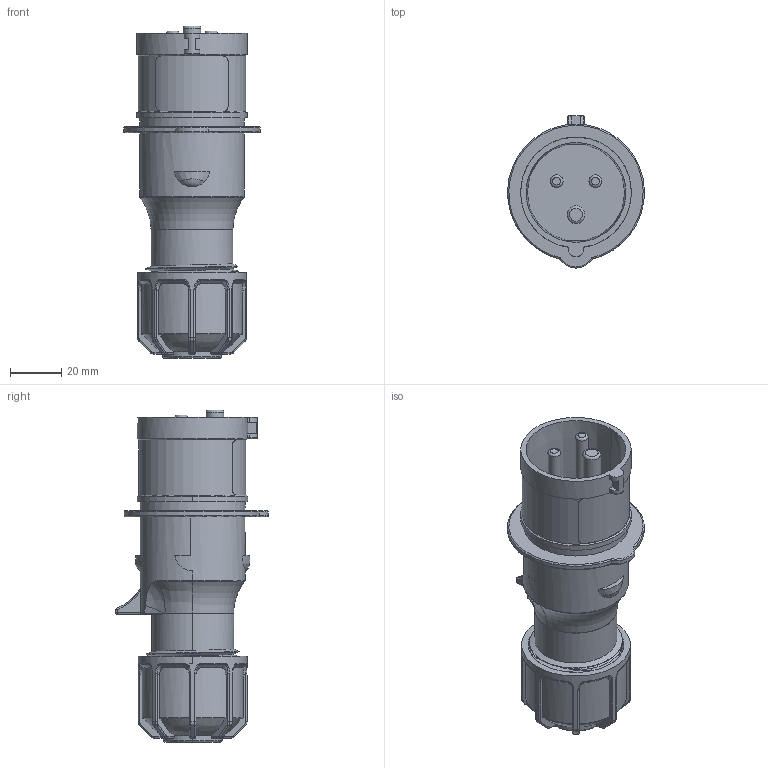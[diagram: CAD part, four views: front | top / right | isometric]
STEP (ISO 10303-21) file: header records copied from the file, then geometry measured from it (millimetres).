
FILE_DESCRIPTION(('FreeCAD Model'),'2;1');
FILE_NAME('Open CASCADE Shape Model','2026-02-04T09:34:04',(''),(''), 'Open CASCADE STEP processor 7.8','FreeCAD','Unknown');
FILE_SCHEMA(('AUTOMOTIVE_DESIGN { 1 0 10303 214 1 1 1 1 }'));
Length unit declared in the file: millimetre
Products named in the file (6): TL3P16432; Prensa cabo; Tomada; Pino Neutro; Pino Terra; Pino L1
Assembly tree (5 placements, depth 2):
  TL3P16432
    Prensa cabo
    Tomada
    Pino Neutro
    Pino Terra
    Pino L1
Bounding box: 53.47 x 59.5 x 129.7 mm (x, y, z)
Volume: 93513.4 mm3; surface area: 38614.7 mm2
Topology: 5 solids, 32 shells, 526 faces, 1226 edges, 771 vertices
Faces by surface type: bspline 206, plane 133, cylinder 105, torus 52, cone 24, sphere 6
Full cylindrical faces by diameter (mm): 5 x2, 7 x1, 41 x1
Entity records: 34995 total; most frequent: CARTESIAN_POINT 24558, ORIENTED_EDGE 2440, DIRECTION 1627, EDGE_CURVE 1220, VERTEX_POINT 769, AXIS2_PLACEMENT_3D 656, B_SPLINE_CURVE_WITH_KNOTS 567, FACE_BOUND 533
